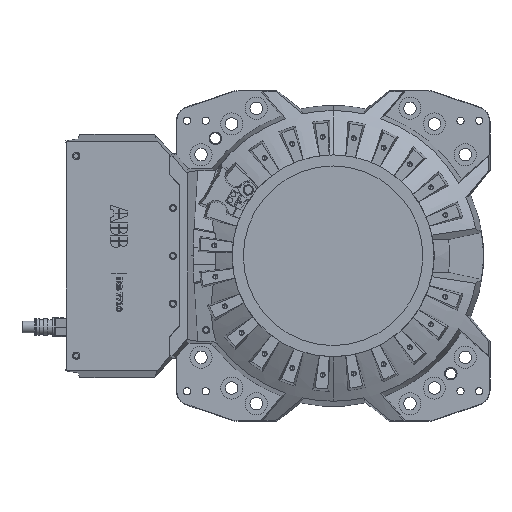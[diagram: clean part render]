
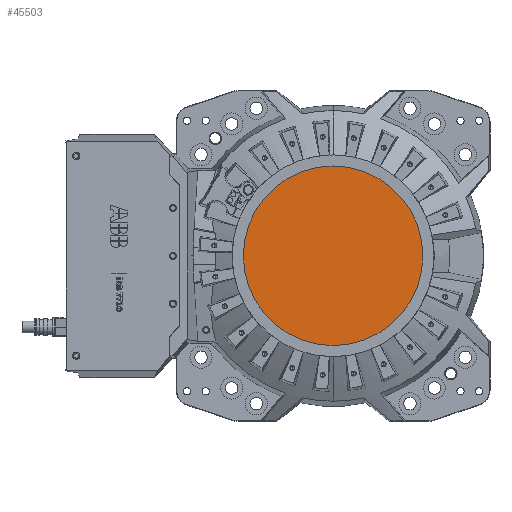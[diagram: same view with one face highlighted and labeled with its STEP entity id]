
A CAD part, top view. The second image highlights one B-rep face of the part: STEP entity #45503.
In plain terms, the highlighted planar face has unit normal (0, 0, 1).
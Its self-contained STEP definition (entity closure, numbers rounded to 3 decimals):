
#8252 = DIRECTION ( 'NONE',  ( 0., -1., 0. ) ) ;
#9337 = DIRECTION ( 'NONE',  ( 0., -1., 0. ) ) ;
#11673 = DIRECTION ( 'NONE',  ( 0., 0., -1. ) ) ;
#12816 = DIRECTION ( 'NONE',  ( 0., -1., 0. ) ) ;
#18168 = EDGE_CURVE ( 'NONE', #22973, #39720, #42735, .T. ) ;
#19276 = FACE_OUTER_BOUND ( 'NONE', #24143, .T. ) ;
#19915 = CARTESIAN_POINT ( 'NONE',  ( 0., 0., 327. ) ) ;
#21738 = AXIS2_PLACEMENT_3D ( 'NONE', #19915, #42787, #12816 ) ;
#22973 = VERTEX_POINT ( 'NONE', #41899 ) ;
#24143 = EDGE_LOOP ( 'NONE', ( #36790, #47017 ) ) ;
#27579 = CARTESIAN_POINT ( 'NONE',  ( 0., 215.75, 327. ) ) ;
#27851 = CIRCLE ( 'NONE', #41905, 215.75 ) ;
#29726 = CARTESIAN_POINT ( 'NONE',  ( 215.173, 0., 327. ) ) ;
#29954 = PLANE ( 'NONE',  #31094 ) ;
#31094 = AXIS2_PLACEMENT_3D ( 'NONE', #29726, #11673, #8252 ) ;
#32011 = DIRECTION ( 'NONE',  ( 0., 0., 1. ) ) ;
#35907 = CARTESIAN_POINT ( 'NONE',  ( 0., 0., 327. ) ) ;
#36790 = ORIENTED_EDGE ( 'NONE', *, *, #18168, .T. ) ;
#39720 = VERTEX_POINT ( 'NONE', #27579 ) ;
#41899 = CARTESIAN_POINT ( 'NONE',  ( 0., -215.75, 327. ) ) ;
#41905 = AXIS2_PLACEMENT_3D ( 'NONE', #35907, #32011, #9337 ) ;
#42533 = EDGE_CURVE ( 'NONE', #39720, #22973, #27851, .T. ) ;
#42735 = CIRCLE ( 'NONE', #21738, 215.75 ) ;
#42787 = DIRECTION ( 'NONE',  ( 0., 0., 1. ) ) ;
#45503 = ADVANCED_FACE ( 'NONE', ( #19276 ), #29954, .F. ) ;
#47017 = ORIENTED_EDGE ( 'NONE', *, *, #42533, .T. ) ;
